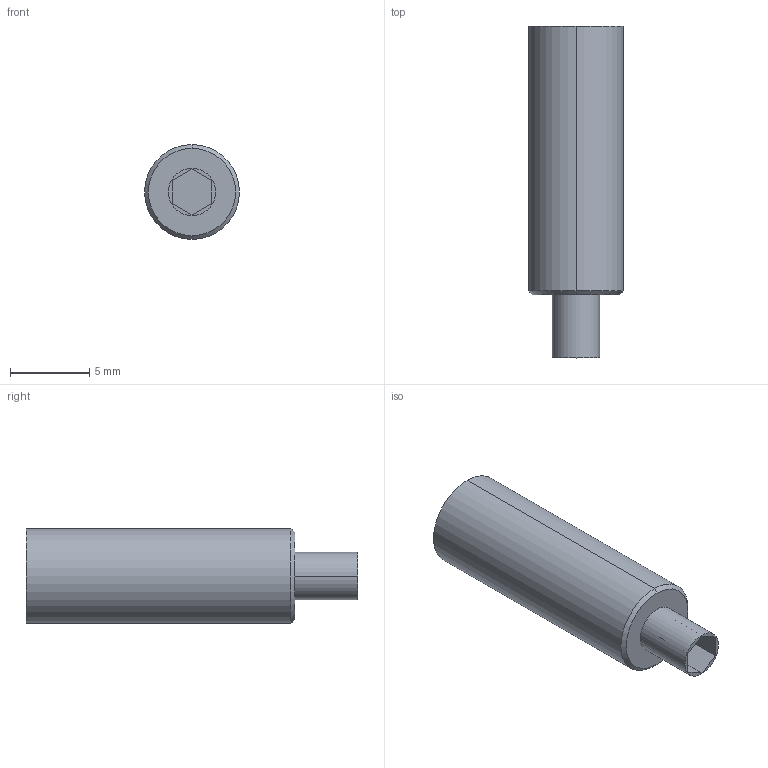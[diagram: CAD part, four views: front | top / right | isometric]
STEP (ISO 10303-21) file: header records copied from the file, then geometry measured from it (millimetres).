
FILE_DESCRIPTION (( 'STEP AP203' ), '1' );
FILE_NAME ('DFY06-27.step', '2026-01-23T22:23:52', ( '' ), ( '' ), 'SwSTEP 2.0', 'SolidWorks 2023', '' );
FILE_SCHEMA (( 'CONFIG_CONTROL_DESIGN' ));
Length unit declared in the file: millimetre
Products named in the file (1): DFY06-27
Bounding box: 6 x 21 x 6 mm (x, y, z)
Volume: 452.7 mm3; surface area: 605.5 mm2
Topology: 2 solids, 2 shells, 197 faces, 518 edges, 344 vertices
Faces by surface type: bspline 118, plane 65, cylinder 10, cone 4
Entity records: 11591 total; most frequent: CARTESIAN_POINT 7434, ORIENTED_EDGE 1036, EDGE_CURVE 518, DIRECTION 466, VERTEX_POINT 344, LINE 258, VECTOR 258, B_SPLINE_CURVE_WITH_KNOTS 236
